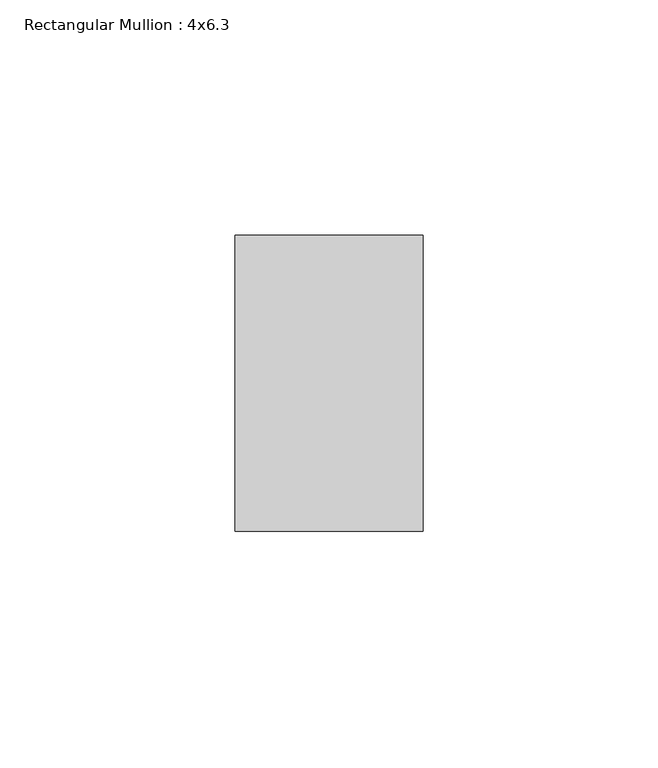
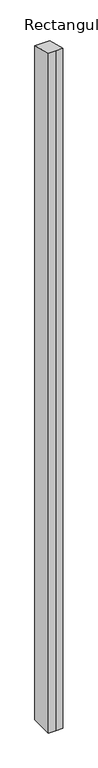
"""IFC4 building model written with IfcOpenShell, lengths in millimetres: member geometry, Rectangular Mullion : 4x6.3."""

import ifcopenshell
import ifcopenshell.guid

model = None  # the IFC model being written
_history = None  # IfcOwnerHistory: only IFC2X3 demands one
_inside = {}  # id of a spatial element -> (the spatial element, [elements in it])
_under = {}  # id of a project, library or spatial element -> (it, [spatial elements below it])
_declared = {}  # id of a project -> (the project, [libraries it declares])
_typed = {}  # id of a type object -> (the type object, [elements of that type])
_made_of = {}  # id of a material, layer set ... -> (it, [elements and type objects made of it])


def new_model(schema):
    """Start an empty IFC model of exactly this schema.

    Asked for "IFC4X3", IfcOpenShell would pick the latest addendum, in which some entities
    have other attributes; the version numbers below select the first issue.
    IFC2X3 requires an IfcOwnerHistory on every rooted entity: one is made here for all.
    """
    global model, _history
    if schema == "IFC4X3":
        model = ifcopenshell.file(schema_version=(4, 3, 0, 0))
    else:
        model = ifcopenshell.file(schema=schema)
    _inside.clear()
    _under.clear()
    _declared.clear()
    _typed.clear()
    _made_of.clear()
    _history = None
    if model.schema == "IFC2X3":
        org = make("IfcOrganization", Name="unknown")
        user = make(
            "IfcPersonAndOrganization",
            ThePerson=make("IfcPerson", FamilyName="unknown"),
            TheOrganization=org,
        )
        app = make(
            "IfcApplication",
            ApplicationDeveloper=org,
            Version="unknown",
            ApplicationFullName="unknown",
            ApplicationIdentifier="unknown",
        )
        _history = make(
            "IfcOwnerHistory",
            OwningUser=user,
            OwningApplication=app,
            ChangeAction="ADDED",
            CreationDate=0,
        )
    return model


def make(cls, **values):
    """One entity of the class cls with the attributes given. An attribute that is None is left unset."""
    return model.create_entity(
        cls, **{name: value for name, value in values.items() if value is not None}
    )


def rooted(cls, **values):
    """An entity with a GlobalId (a new one), such as an element, a storey or a relation."""
    return make(cls, GlobalId=ifcopenshell.guid.new(), OwnerHistory=_history, **values)


def si_unit(unit_type, name, prefix=None):
    """IfcSIUnit, for example si_unit("LENGTHUNIT", "METRE", prefix="MILLI")."""
    return make("IfcSIUnit", UnitType=unit_type, Prefix=prefix, Name=name)


def assignment(units):
    """IfcUnitAssignment: the units of a project."""
    return None if units is None else make("IfcUnitAssignment", Units=units)


def point(xyz):
    """IfcCartesianPoint."""
    return None if xyz is None else make("IfcCartesianPoint", Coordinates=xyz)


def direction(xyz):
    """IfcDirection."""
    return None if xyz is None else make("IfcDirection", DirectionRatios=xyz)


def frame(location, z_axis=None, x_axis=None):
    """IfcAxis2Placement3D, a coordinate frame: its origin and axes. An axis left out is left unset."""
    return make(
        "IfcAxis2Placement3D",
        Location=point(location),
        Axis=direction(z_axis),
        RefDirection=direction(x_axis),
    )


def origin():
    """The frame at (0, 0, 0) with its axes left unset."""
    return frame((0.0, 0.0, 0.0))


def place(relative_to, where):
    """IfcLocalPlacement: puts the frame where relative to a parent placement (None: the world)."""
    return make(
        "IfcLocalPlacement", PlacementRelTo=relative_to, RelativePlacement=where
    )


def context(
    kind, dimensions, precision=None, world=None, true_north=None, identifier=None
):
    """IfcGeometricRepresentationContext, for example the 3D "Model" context."""
    return make(
        "IfcGeometricRepresentationContext",
        ContextIdentifier=identifier,
        ContextType=kind,
        CoordinateSpaceDimension=dimensions,
        Precision=precision,
        WorldCoordinateSystem=world,
        TrueNorth=true_north,
    )


def project(units=None, contexts=None):
    """IfcProject with its units and contexts."""
    return rooted(
        "IfcProject",
        Name="project",
        RepresentationContexts=contexts,
        UnitsInContext=assignment(units),
    )


def spatial(cls, under=None, at=None, **own):
    """A site, building, storey or space (cls), placed at a placement, below another one or the project."""
    s = rooted(cls, ObjectPlacement=at, **own)
    if under is not None:
        _under.setdefault(under.id(), (under, []))[1].append(s)
    return s


def faces_of(points, faces, orient=None, outer=None):
    """IfcFace entities. A face is a list of loops; a loop is a list of indices into points, from 0.

    orient and outer hold one flag for each loop. By default every Orientation is true, the
    first loop of a face is its IfcFaceOuterBound and the others are IfcFaceBound.
    """
    made = []
    for i, loops in enumerate(faces):
        bounds = []
        for j, loop in enumerate(loops):
            is_outer = j == 0 if outer is None else outer[i][j]
            bounds.append(
                make(
                    "IfcFaceOuterBound" if is_outer else "IfcFaceBound",
                    Bound=make("IfcPolyLoop", Polygon=[points[k] for k in loop]),
                    Orientation=True if orient is None else orient[i][j],
                )
            )
        made.append(make("IfcFace", Bounds=bounds))
    return made


def faceted_brep(points, faces, orient=None, outer=None, voids=None):
    """IfcFacetedBrep: a solid bounded by flat faces; with voids (closed shells), ...WithVoids."""
    shared = [point(p) for p in points]
    hull = make("IfcClosedShell", CfsFaces=faces_of(shared, faces, orient, outer))
    if voids is None:
        return make("IfcFacetedBrep", Outer=hull)
    return make(
        "IfcFacetedBrepWithVoids",
        Outer=hull,
        Voids=[
            make(cls, CfsFaces=faces_of(shared, fs, o, b)) for cls, fs, o, b in voids
        ],
    )


def shape(context_of_items, identifier, shape_type, items):
    """IfcShapeRepresentation: the items that make up one representation, for example the "Body"."""
    return make(
        "IfcShapeRepresentation",
        ContextOfItems=context_of_items,
        RepresentationIdentifier=identifier,
        RepresentationType=shape_type,
        Items=items,
    )


def source(mapping_origin, context_of_items, identifier, shape_type, items):
    """IfcRepresentationMap: a shape defined once, which mapped items show again and again."""
    return make(
        "IfcRepresentationMap",
        MappingOrigin=mapping_origin,
        MappedRepresentation=shape(context_of_items, identifier, shape_type, items),
    )


def transform(
    local_origin,
    x_axis=None,
    y_axis=None,
    z_axis=None,
    scale=None,
    scale2=None,
    scale3=None,
    uniform=True,
):
    """IfcCartesianTransformationOperator3D, or its non-uniform kind. x_axis, y_axis, z_axis: its Axis1, 2, 3."""
    if uniform:
        return make(
            "IfcCartesianTransformationOperator3D",
            Axis1=direction(x_axis),
            Axis2=direction(y_axis),
            LocalOrigin=point(local_origin),
            Scale=scale,
            Axis3=direction(z_axis),
        )
    return make(
        "IfcCartesianTransformationOperator3DnonUniform",
        Axis1=direction(x_axis),
        Axis2=direction(y_axis),
        LocalOrigin=point(local_origin),
        Scale=scale,
        Axis3=direction(z_axis),
        Scale2=scale2,
        Scale3=scale3,
    )


def mapped(mapping_source, mapping_target):
    """IfcMappedItem: shows the shape of a source again, moved by a transform."""
    return make(
        "IfcMappedItem", MappingSource=mapping_source, MappingTarget=mapping_target
    )


def made_of(thing, what):
    """Note that an element or type object is made of a material, layer set ...; save() writes the relation."""
    if what is not None:
        _made_of.setdefault(what.id(), (what, []))[1].append(thing)
    return thing


def element(
    cls,
    number,
    at=None,
    inside=None,
    cuts=None,
    type_object=None,
    material=None,
    context=None,
    identifier="Body",
    shape_type=None,
    held_by="IfcProductDefinitionShape",
    body=None,
    shapes=None,
    **own,
):
    """One element of the class cls, such as IfcWall. Its Tag is "e" and its number.

    at: its placement. inside: the storey or other place that contains it. cuts: it is an
    opening in that element (IfcRelVoidsElement). A single representation is given by context,
    identifier, shape_type and body (its items); several are given by shapes. held_by: the class
    of the entity that holds the representations. save() writes the other relations.
    """
    e = rooted(cls, Tag="e%d" % number, ObjectPlacement=at, **own)
    if body is not None:
        shapes = [shape(context, identifier, shape_type, body)]
    if shapes is not None:
        e.Representation = make(held_by, Representations=shapes)
    if inside is not None:
        _inside.setdefault(inside.id(), (inside, []))[1].append(e)
    if cuts is not None:
        rooted(
            "IfcRelVoidsElement", RelatingBuildingElement=cuts, RelatedOpeningElement=e
        )
    if type_object is not None:
        _typed.setdefault(type_object.id(), (type_object, []))[1].append(e)
    return made_of(e, material)


def aggregate(whole, parts):
    """IfcRelAggregates: a whole, such as a stair, and the parts it consists of."""
    return rooted("IfcRelAggregates", RelatingObject=whole, RelatedObjects=parts)


def save(model, path):
    """Write the relations noted so far, then the file.

    IfcRelAggregates (storeys below a building ...), IfcRelContainedInSpatialStructure (elements
    in a storey), IfcRelDefinesByType, IfcRelAssociatesMaterial and IfcRelDeclares: one each for
    every whole, place, type object, material and project.
    """
    for whole, parts in _under.values():
        aggregate(whole, parts)
    for where, things in _inside.values():
        rooted(
            "IfcRelContainedInSpatialStructure",
            RelatedElements=things,
            RelatingStructure=where,
        )
    for kind, things in _typed.values():
        rooted("IfcRelDefinesByType", RelatedObjects=things, RelatingType=kind)
    for what, things in _made_of.values():
        rooted("IfcRelAssociatesMaterial", RelatedObjects=things, RelatingMaterial=what)
    for by, libraries in _declared.values():
        rooted("IfcRelDeclares", RelatingContext=by, RelatedDefinitions=libraries)
    model.write(path)


def rectangular_mullion_4x6_3_9a2fd24a(model_context):
    return source(origin(), model_context, "Body", "Brep", [
        faceted_brep([(-20.0, 20.0, -1964.3264351), (-20.0, 83.0, -1964.3264351), (20.0, 83.0, -1964.3264351), (20.0, 20.0, -1964.3264351), (0.0, 20.0, -1964.3264351), (0.0, 20.0, -5.4283368), (-20.0, 20.0, -5.4283368), (20.0, 20.0, -5.4283368), (20.0, 83.0, -22.5275978), (-20.0, 83.0, -22.5275978)], [[[0, 1, 2, 3, 4]], [[5, 6, 0, 4]], [[7, 5, 4, 3]], [[8, 7, 3, 2]], [[9, 8, 2, 1]], [[6, 9, 1, 0]], [[6, 5, 7, 8, 9]]]),
    ])


if __name__ == "__main__":
    model = new_model("IFC4")
    model_context = context("Model", 3, world=origin())
    ifc_project = project(units=[si_unit("LENGTHUNIT", "METRE", prefix="MILLI")], contexts=[model_context])
    site = spatial("IfcSite", under=ifc_project)
    building = spatial("IfcBuilding", under=site)
    placement = place(None, origin())
    rectangular_mullion_4x6_3_shape = rectangular_mullion_4x6_3_9a2fd24a(model_context)
    element("IfcMember", 1, ObjectType="Rectangular Mullion : 4x6.3", at=placement, inside=building, context=model_context, shape_type="MappedRepresentation", body=[
        mapped(rectangular_mullion_4x6_3_shape, transform((0.0, 0.0, 0.0), x_axis=(1.0, 0.0, 0.0), y_axis=(0.0, 1.0, 0.0), z_axis=(0.0, 0.0, 1.0))),
    ])
    save(model, "model.ifc")
